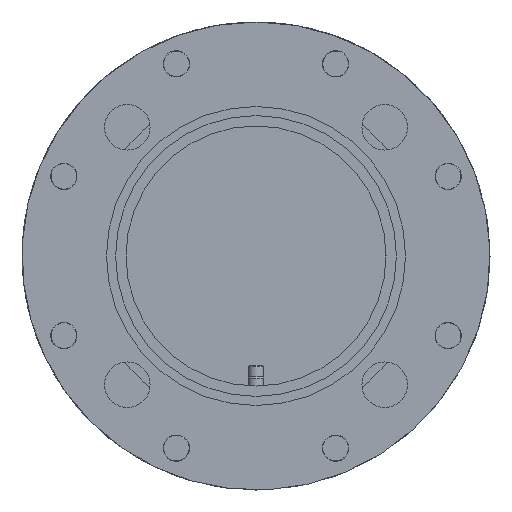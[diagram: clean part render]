
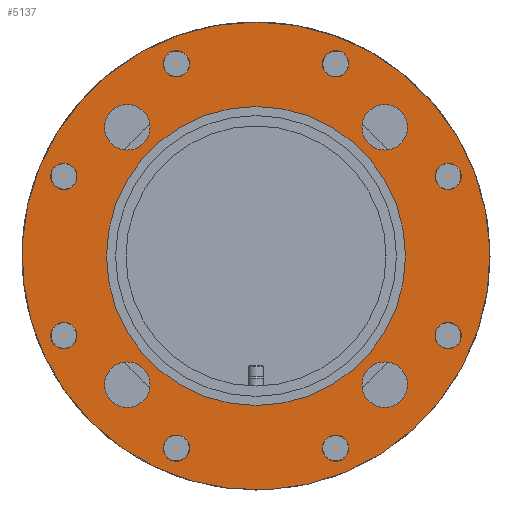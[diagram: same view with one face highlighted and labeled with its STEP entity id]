
A CAD part, left-side view. The second image highlights one B-rep face of the part: STEP entity #5137.
In plain terms, the highlighted planar face has unit normal (-1, 0, 0).
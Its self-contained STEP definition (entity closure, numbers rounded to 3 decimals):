
#5108 = EDGE_CURVE('',#5109,#5111,#5113,.T.);
#5109 = VERTEX_POINT('',#5110);
#5110 = CARTESIAN_POINT('',(-605.,0.,90.));
#5111 = VERTEX_POINT('',#5112);
#5112 = CARTESIAN_POINT('',(-605.,-34.442,-83.149));
#5113 = CIRCLE('',#5114,90.);
#5114 = AXIS2_PLACEMENT_3D('',#5115,#5116,#5117);
#5115 = CARTESIAN_POINT('',(-605.,0.,0.));
#5116 = DIRECTION('',(1.,0.,-0.));
#5117 = DIRECTION('',(0.,0.,1.));
#5126 = EDGE_CURVE('',#5111,#5109,#5127,.T.);
#5127 = CIRCLE('',#5128,90.);
#5128 = AXIS2_PLACEMENT_3D('',#5129,#5130,#5131);
#5129 = CARTESIAN_POINT('',(-605.,0.,0.));
#5130 = DIRECTION('',(1.,0.,-0.));
#5131 = DIRECTION('',(0.,0.,1.));
#5137 = ADVANCED_FACE('',(#5138,#5142,#5153,#5164,#5175,#5186,#5197,
    #5208,#5219,#5230,#5241,#5252,#5263,#5274),#5285,.T.);
#5138 = FACE_BOUND('',#5139,.T.);
#5139 = EDGE_LOOP('',(#5140,#5141));
#5140 = ORIENTED_EDGE('',*,*,#5108,.F.);
#5141 = ORIENTED_EDGE('',*,*,#5126,.F.);
#5142 = FACE_BOUND('',#5143,.T.);
#5143 = EDGE_LOOP('',(#5144));
#5144 = ORIENTED_EDGE('',*,*,#5145,.T.);
#5145 = EDGE_CURVE('',#5146,#5146,#5148,.T.);
#5146 = VERTEX_POINT('',#5147);
#5147 = CARTESIAN_POINT('',(-605.,73.91,-25.562));
#5148 = CIRCLE('',#5149,5.053);
#5149 = AXIS2_PLACEMENT_3D('',#5150,#5151,#5152);
#5150 = CARTESIAN_POINT('',(-605.,73.91,-30.615));
#5151 = DIRECTION('',(1.,0.,0.));
#5152 = DIRECTION('',(0.,0.,-1.));
#5153 = FACE_BOUND('',#5154,.T.);
#5154 = EDGE_LOOP('',(#5155));
#5155 = ORIENTED_EDGE('',*,*,#5156,.T.);
#5156 = EDGE_CURVE('',#5157,#5157,#5159,.T.);
#5157 = VERTEX_POINT('',#5158);
#5158 = CARTESIAN_POINT('',(-605.,73.91,35.668));
#5159 = CIRCLE('',#5160,5.053);
#5160 = AXIS2_PLACEMENT_3D('',#5161,#5162,#5163);
#5161 = CARTESIAN_POINT('',(-605.,73.91,30.615));
#5162 = DIRECTION('',(1.,0.,0.));
#5163 = DIRECTION('',(0.,0.,-1.));
#5164 = FACE_BOUND('',#5165,.T.);
#5165 = EDGE_LOOP('',(#5166));
#5166 = ORIENTED_EDGE('',*,*,#5167,.T.);
#5167 = EDGE_CURVE('',#5168,#5168,#5170,.T.);
#5168 = VERTEX_POINT('',#5169);
#5169 = CARTESIAN_POINT('',(-605.,-25.562,-73.91));
#5170 = CIRCLE('',#5171,5.053);
#5171 = AXIS2_PLACEMENT_3D('',#5172,#5173,#5174);
#5172 = CARTESIAN_POINT('',(-605.,-30.615,-73.91));
#5173 = DIRECTION('',(1.,0.,0.));
#5174 = DIRECTION('',(0.,-1.,0.));
#5175 = FACE_BOUND('',#5176,.T.);
#5176 = EDGE_LOOP('',(#5177));
#5177 = ORIENTED_EDGE('',*,*,#5178,.T.);
#5178 = EDGE_CURVE('',#5179,#5179,#5181,.T.);
#5179 = VERTEX_POINT('',#5180);
#5180 = CARTESIAN_POINT('',(-605.,35.668,-73.91));
#5181 = CIRCLE('',#5182,5.053);
#5182 = AXIS2_PLACEMENT_3D('',#5183,#5184,#5185);
#5183 = CARTESIAN_POINT('',(-605.,30.615,-73.91));
#5184 = DIRECTION('',(1.,0.,0.));
#5185 = DIRECTION('',(0.,-1.,0.));
#5186 = FACE_BOUND('',#5187,.T.);
#5187 = EDGE_LOOP('',(#5188));
#5188 = ORIENTED_EDGE('',*,*,#5189,.T.);
#5189 = EDGE_CURVE('',#5190,#5190,#5192,.T.);
#5190 = VERTEX_POINT('',#5191);
#5191 = CARTESIAN_POINT('',(-605.,-73.91,25.562));
#5192 = CIRCLE('',#5193,5.053);
#5193 = AXIS2_PLACEMENT_3D('',#5194,#5195,#5196);
#5194 = CARTESIAN_POINT('',(-605.,-73.91,30.615));
#5195 = DIRECTION('',(1.,0.,-0.));
#5196 = DIRECTION('',(0.,0.,1.));
#5197 = FACE_BOUND('',#5198,.T.);
#5198 = EDGE_LOOP('',(#5199));
#5199 = ORIENTED_EDGE('',*,*,#5200,.T.);
#5200 = EDGE_CURVE('',#5201,#5201,#5203,.T.);
#5201 = VERTEX_POINT('',#5202);
#5202 = CARTESIAN_POINT('',(-605.,-73.91,-35.668));
#5203 = CIRCLE('',#5204,5.053);
#5204 = AXIS2_PLACEMENT_3D('',#5205,#5206,#5207);
#5205 = CARTESIAN_POINT('',(-605.,-73.91,-30.615));
#5206 = DIRECTION('',(1.,0.,-0.));
#5207 = DIRECTION('',(0.,0.,1.));
#5208 = FACE_BOUND('',#5209,.T.);
#5209 = EDGE_LOOP('',(#5210));
#5210 = ORIENTED_EDGE('',*,*,#5211,.T.);
#5211 = EDGE_CURVE('',#5212,#5212,#5214,.T.);
#5212 = VERTEX_POINT('',#5213);
#5213 = CARTESIAN_POINT('',(-605.,49.497,-40.747));
#5214 = CIRCLE('',#5215,8.75);
#5215 = AXIS2_PLACEMENT_3D('',#5216,#5217,#5218);
#5216 = CARTESIAN_POINT('',(-605.,49.497,-49.497));
#5217 = DIRECTION('',(1.,0.,0.));
#5218 = DIRECTION('',(0.,0.,-1.));
#5219 = FACE_BOUND('',#5220,.T.);
#5220 = EDGE_LOOP('',(#5221));
#5221 = ORIENTED_EDGE('',*,*,#5222,.T.);
#5222 = EDGE_CURVE('',#5223,#5223,#5225,.T.);
#5223 = VERTEX_POINT('',#5224);
#5224 = CARTESIAN_POINT('',(-605.,-40.747,-49.497));
#5225 = CIRCLE('',#5226,8.75);
#5226 = AXIS2_PLACEMENT_3D('',#5227,#5228,#5229);
#5227 = CARTESIAN_POINT('',(-605.,-49.497,-49.497));
#5228 = DIRECTION('',(1.,0.,0.));
#5229 = DIRECTION('',(0.,-1.,0.));
#5230 = FACE_BOUND('',#5231,.T.);
#5231 = EDGE_LOOP('',(#5232));
#5232 = ORIENTED_EDGE('',*,*,#5233,.T.);
#5233 = EDGE_CURVE('',#5234,#5234,#5236,.T.);
#5234 = VERTEX_POINT('',#5235);
#5235 = CARTESIAN_POINT('',(-605.,-49.497,40.747));
#5236 = CIRCLE('',#5237,8.75);
#5237 = AXIS2_PLACEMENT_3D('',#5238,#5239,#5240);
#5238 = CARTESIAN_POINT('',(-605.,-49.497,49.497));
#5239 = DIRECTION('',(1.,0.,-0.));
#5240 = DIRECTION('',(0.,0.,1.));
#5241 = FACE_BOUND('',#5242,.T.);
#5242 = EDGE_LOOP('',(#5243));
#5243 = ORIENTED_EDGE('',*,*,#5244,.T.);
#5244 = EDGE_CURVE('',#5245,#5245,#5247,.T.);
#5245 = VERTEX_POINT('',#5246);
#5246 = CARTESIAN_POINT('',(-605.,40.747,49.497));
#5247 = CIRCLE('',#5248,8.75);
#5248 = AXIS2_PLACEMENT_3D('',#5249,#5250,#5251);
#5249 = CARTESIAN_POINT('',(-605.,49.497,49.497));
#5250 = DIRECTION('',(1.,0.,0.));
#5251 = DIRECTION('',(-0.,1.,0.));
#5252 = FACE_BOUND('',#5253,.T.);
#5253 = EDGE_LOOP('',(#5254));
#5254 = ORIENTED_EDGE('',*,*,#5255,.T.);
#5255 = EDGE_CURVE('',#5256,#5256,#5258,.T.);
#5256 = VERTEX_POINT('',#5257);
#5257 = CARTESIAN_POINT('',(-605.,25.562,73.91));
#5258 = CIRCLE('',#5259,5.053);
#5259 = AXIS2_PLACEMENT_3D('',#5260,#5261,#5262);
#5260 = CARTESIAN_POINT('',(-605.,30.615,73.91));
#5261 = DIRECTION('',(1.,0.,0.));
#5262 = DIRECTION('',(-0.,1.,0.));
#5263 = FACE_BOUND('',#5264,.T.);
#5264 = EDGE_LOOP('',(#5265));
#5265 = ORIENTED_EDGE('',*,*,#5266,.T.);
#5266 = EDGE_CURVE('',#5267,#5267,#5269,.T.);
#5267 = VERTEX_POINT('',#5268);
#5268 = CARTESIAN_POINT('',(-605.,-35.668,73.91));
#5269 = CIRCLE('',#5270,5.053);
#5270 = AXIS2_PLACEMENT_3D('',#5271,#5272,#5273);
#5271 = CARTESIAN_POINT('',(-605.,-30.615,73.91));
#5272 = DIRECTION('',(1.,0.,0.));
#5273 = DIRECTION('',(-0.,1.,0.));
#5274 = FACE_BOUND('',#5275,.T.);
#5275 = EDGE_LOOP('',(#5276));
#5276 = ORIENTED_EDGE('',*,*,#5277,.T.);
#5277 = EDGE_CURVE('',#5278,#5278,#5280,.T.);
#5278 = VERTEX_POINT('',#5279);
#5279 = CARTESIAN_POINT('',(-605.,0.,57.5));
#5280 = CIRCLE('',#5281,57.5);
#5281 = AXIS2_PLACEMENT_3D('',#5282,#5283,#5284);
#5282 = CARTESIAN_POINT('',(-605.,0.,0.));
#5283 = DIRECTION('',(1.,0.,-0.));
#5284 = DIRECTION('',(0.,0.,1.));
#5285 = PLANE('',#5286);
#5286 = AXIS2_PLACEMENT_3D('',#5287,#5288,#5289);
#5287 = CARTESIAN_POINT('',(-605.,0.,73.75));
#5288 = DIRECTION('',(-1.,0.,0.));
#5289 = DIRECTION('',(0.,-1.,0.));
